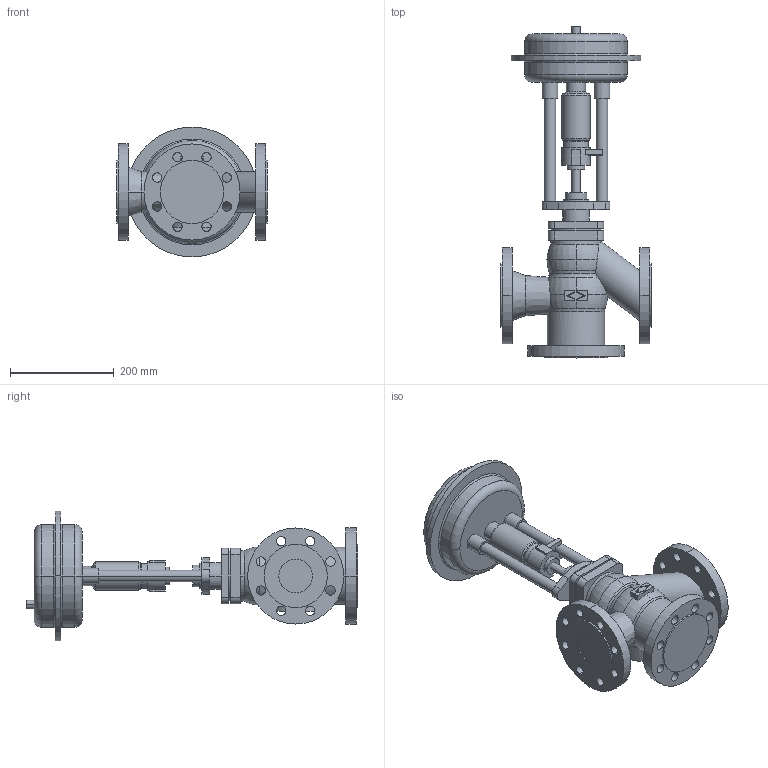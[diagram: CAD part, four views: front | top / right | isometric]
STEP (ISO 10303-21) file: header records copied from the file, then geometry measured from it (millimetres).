
FILE_DESCRIPTION(('OneSpaceDesigner STEP Export'),'2;1');
FILE_NAME('c000000656.stp','2006-09-13T12:59:24',(''),(''),'OneSpace Designer STEP processor for AP214 (Solid Model)','OneSpace Designer 13.20A 18-Aug-2005 (C) CoCreate Software GmbH','');
FILE_SCHEMA(('AUTOMOTIVE_DESIGN { 1 0 10303 214 1 1 1 1 }'));
Length unit declared in the file: millimetre
Products named in the file (2): 1; 2
Bounding box: 290 x 639.5 x 250 mm (x, y, z)
Volume: 8554910.5 mm3; surface area: 577201.2 mm2
Topology: 2 solids, 2 shells, 242 faces, 606 edges, 396 vertices
Faces by surface type: cylinder 120, plane 77, torus 37, cone 8
Entity records: 6633 total; most frequent: CARTESIAN_POINT 1361, ORIENTED_EDGE 1212, DIRECTION 932, EDGE_CURVE 606, VERTEX_POINT 396, AXIS2_PLACEMENT_3D 347, EDGE_LOOP 318, FACE_OUTER_BOUND 242
